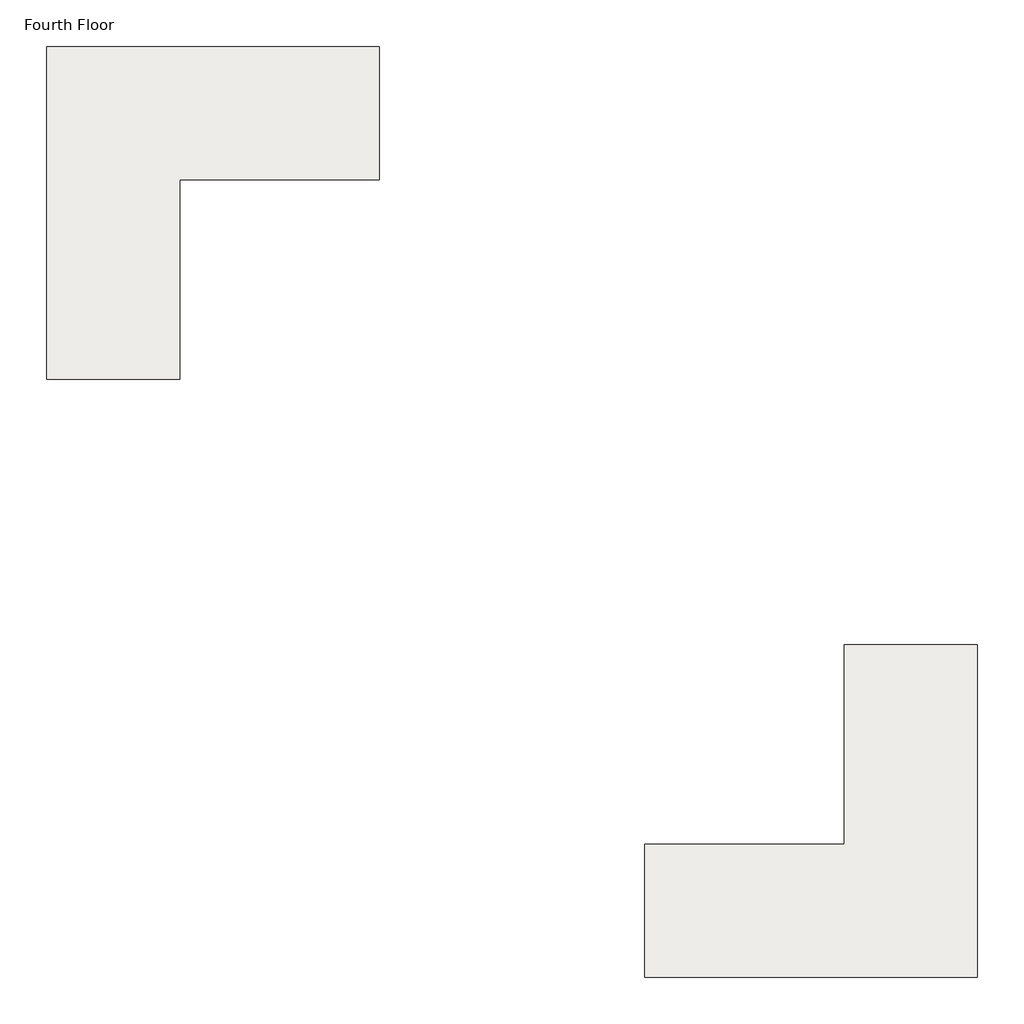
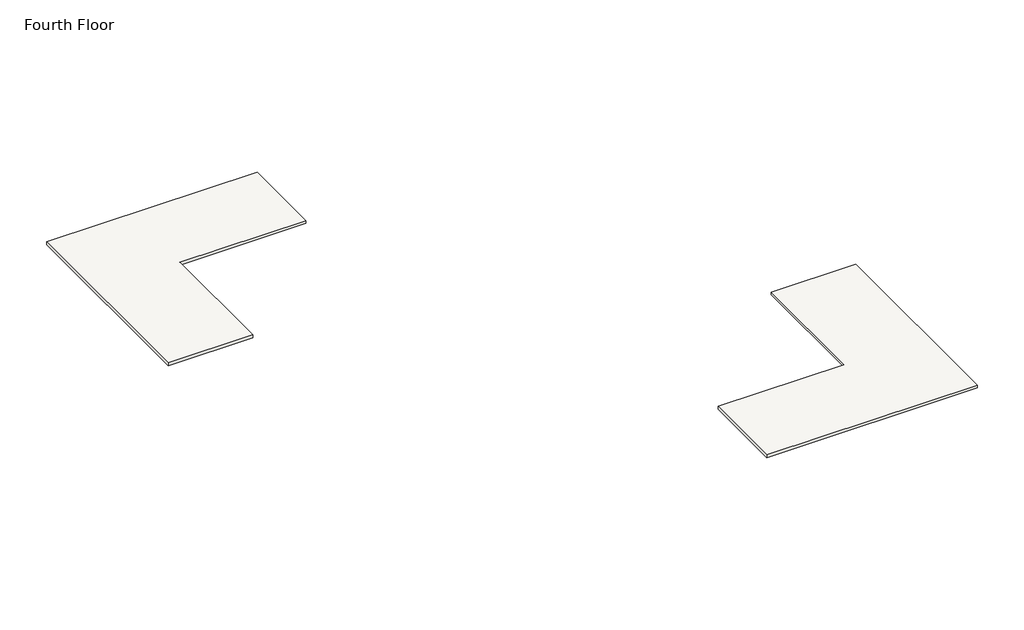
# One storey: 1 slab.
"""IFC4 building model written with IfcOpenShell, lengths in millimetres."""

from ifc_helpers import new_model, si_unit, frame, origin, place, context, project, spatial, polyline, outline, extrude, element, save

model = new_model("IFC4")

# Units and contexts
model_context = context("Model", 3, world=origin())
ifc_project = project(units=[si_unit("LENGTHUNIT", "METRE", prefix="MILLI")], contexts=[model_context])

# Site, building, storey
site = spatial("IfcSite", under=ifc_project)
building = spatial("IfcBuilding", under=site)
storey = spatial("IfcBuildingStorey", under=building, Name="Fourth Floor", Elevation=9144.0)

# Slab
placement = place(None, origin())
element("IfcSlab", 1, ObjectType="LW Concrete on Metal Deck", at=placement, inside=storey, context=model_context, shape_type="SweptSolid", body=[
    extrude(outline(polyline([(-9933.263284, 12739.1261432), (-14505.263284, 12739.1261432), (-14505.263284, 8167.1261432), (-17553.263284, 8167.1261432), (-17553.263284, 15787.1261432), (-9933.263284, 15787.1261432), (-9933.263284, 12739.1261432)])), frame((0.0, 0.0, 9039.225), z_axis=(0.0, 0.0, 1.0), x_axis=(1.0, 0.0, 0.0)), (0.0, 0.0, 1.0), 104.775),
    extrude(outline(polyline([(734.736716, 2071.1261432), (3782.736716, 2071.1261432), (3782.736716, -5548.8738568), (-3837.263284, -5548.8738568), (-3837.263284, -2500.8738568), (734.736716, -2500.8738568), (734.736716, 2071.1261432)])), frame((0.0, 0.0, 9039.225), z_axis=(0.0, 0.0, 1.0), x_axis=(1.0, 0.0, 0.0)), (0.0, 0.0, 1.0), 104.775),
])

save(model, "model.ifc")
